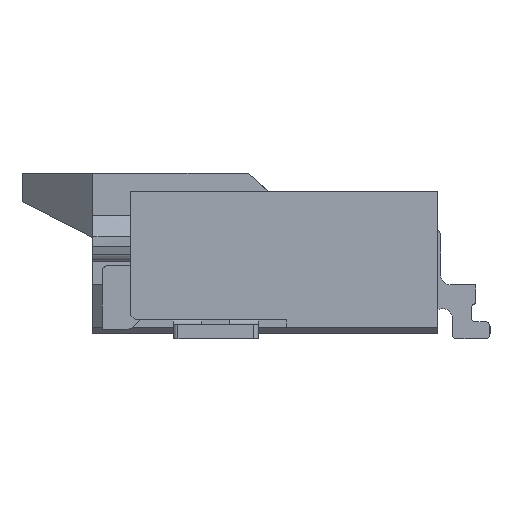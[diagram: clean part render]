
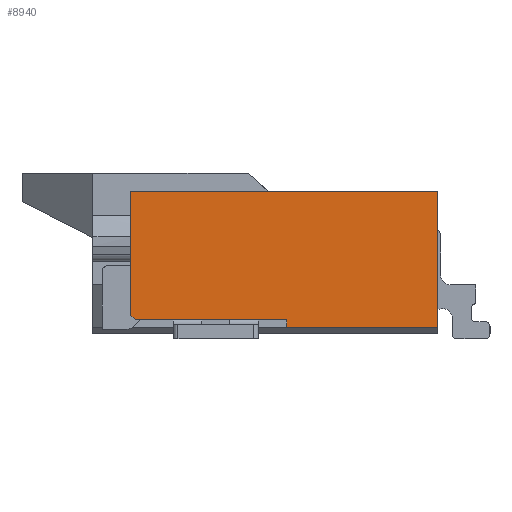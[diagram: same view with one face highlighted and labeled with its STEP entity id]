
A CAD part, left-side view. The second image highlights one B-rep face of the part: STEP entity #8940.
In plain terms, the highlighted planar face has unit normal (-1, 0, 0).
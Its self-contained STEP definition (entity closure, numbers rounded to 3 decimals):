
#298 = VECTOR ( 'NONE', #4118, 1000. ) ;
#336 = DIRECTION ( 'NONE',  ( 0., 1., 0. ) ) ;
#518 = ORIENTED_EDGE ( 'NONE', *, *, #2108, .F. ) ;
#606 = VERTEX_POINT ( 'NONE', #10501 ) ;
#1070 = LINE ( 'NONE', #8551, #7307 ) ;
#1750 = CARTESIAN_POINT ( 'NONE',  ( 7.15, -2.05, 0.07 ) ) ;
#1794 = CARTESIAN_POINT ( 'NONE',  ( 7.15, -3.65, 0. ) ) ;
#1831 = CARTESIAN_POINT ( 'NONE',  ( 7.15, -0.4, 0. ) ) ;
#2008 = CARTESIAN_POINT ( 'NONE',  ( 7.15, -3.65, 0.07 ) ) ;
#2108 = EDGE_CURVE ( 'NONE', #11210, #14336, #7288, .T. ) ;
#2283 = EDGE_CURVE ( 'NONE', #15103, #9662, #13689, .T. ) ;
#2406 = CARTESIAN_POINT ( 'NONE',  ( 7.15, -2.05, 0.15 ) ) ;
#3213 = LINE ( 'NONE', #1794, #6869 ) ;
#3321 = PLANE ( 'NONE',  #14597 ) ;
#3378 = EDGE_CURVE ( 'NONE', #14336, #19153, #1070, .T. ) ;
#3511 = EDGE_CURVE ( 'NONE', #9662, #606, #4976, .T. ) ;
#4118 = DIRECTION ( 'NONE',  ( 0., 1., 0. ) ) ;
#4200 = ORIENTED_EDGE ( 'NONE', *, *, #7908, .T. ) ;
#4976 = LINE ( 'NONE', #1831, #12768 ) ;
#6267 = ORIENTED_EDGE ( 'NONE', *, *, #18373, .F. ) ;
#6305 = LINE ( 'NONE', #14409, #18193 ) ;
#6448 = CARTESIAN_POINT ( 'NONE',  ( 7.15, -0.45, 0.15 ) ) ;
#6869 = VECTOR ( 'NONE', #17194, 1000. ) ;
#6939 = ORIENTED_EDGE ( 'NONE', *, *, #2283, .F. ) ;
#7288 = LINE ( 'NONE', #19370, #7594 ) ;
#7307 = VECTOR ( 'NONE', #14740, 1000. ) ;
#7373 = CARTESIAN_POINT ( 'NONE',  ( 7.15, -0.4, 1.51 ) ) ;
#7594 = VECTOR ( 'NONE', #11959, 1000. ) ;
#7741 = ORIENTED_EDGE ( 'NONE', *, *, #10697, .F. ) ;
#7908 = EDGE_CURVE ( 'NONE', #16389, #606, #13561, .T. ) ;
#8075 = CARTESIAN_POINT ( 'NONE',  ( 7.15, 0., 0. ) ) ;
#8551 = CARTESIAN_POINT ( 'NONE',  ( 7.15, -2.05, 0.07 ) ) ;
#8940 = ADVANCED_FACE ( 'NONE', ( #11013 ), #3321, .T. ) ;
#9662 = VERTEX_POINT ( 'NONE', #16213 ) ;
#10501 = CARTESIAN_POINT ( 'NONE',  ( 7.15, -0.4, 1.51 ) ) ;
#10697 = EDGE_CURVE ( 'NONE', #19153, #15103, #6305, .T. ) ;
#10825 = VECTOR ( 'NONE', #19882, 1000. ) ;
#11013 = FACE_OUTER_BOUND ( 'NONE', #14204, .T. ) ;
#11144 = DIRECTION ( 'NONE',  ( 0., 0., 1. ) ) ;
#11210 = VERTEX_POINT ( 'NONE', #2008 ) ;
#11959 = DIRECTION ( 'NONE',  ( 0., 1., 0. ) ) ;
#12768 = VECTOR ( 'NONE', #11144, 1000. ) ;
#13337 = ORIENTED_EDGE ( 'NONE', *, *, #3511, .F. ) ;
#13561 = LINE ( 'NONE', #7373, #298 ) ;
#13689 = LINE ( 'NONE', #13885, #10825 ) ;
#13885 = CARTESIAN_POINT ( 'NONE',  ( 7.15, -0.45, 0.15 ) ) ;
#14170 = DIRECTION ( 'NONE',  ( 0., 1., 0. ) ) ;
#14204 = EDGE_LOOP ( 'NONE', ( #518, #6267, #4200, #13337, #6939, #7741, #17430 ) ) ;
#14336 = VERTEX_POINT ( 'NONE', #1750 ) ;
#14409 = CARTESIAN_POINT ( 'NONE',  ( 7.15, 0., 0.15 ) ) ;
#14597 = AXIS2_PLACEMENT_3D ( 'NONE', #8075, #15694, #14170 ) ;
#14740 = DIRECTION ( 'NONE',  ( 0., 0., 1. ) ) ;
#15092 = CARTESIAN_POINT ( 'NONE',  ( 7.15, -3.65, 1.51 ) ) ;
#15103 = VERTEX_POINT ( 'NONE', #6448 ) ;
#15694 = DIRECTION ( 'NONE',  ( -1., 0., 0. ) ) ;
#16213 = CARTESIAN_POINT ( 'NONE',  ( 7.15, -0.4, 0.2 ) ) ;
#16389 = VERTEX_POINT ( 'NONE', #15092 ) ;
#17194 = DIRECTION ( 'NONE',  ( 0., 0., -1. ) ) ;
#17430 = ORIENTED_EDGE ( 'NONE', *, *, #3378, .F. ) ;
#18193 = VECTOR ( 'NONE', #336, 1000. ) ;
#18373 = EDGE_CURVE ( 'NONE', #16389, #11210, #3213, .T. ) ;
#19153 = VERTEX_POINT ( 'NONE', #2406 ) ;
#19370 = CARTESIAN_POINT ( 'NONE',  ( 7.15, 0., 0.07 ) ) ;
#19882 = DIRECTION ( 'NONE',  ( 0., 0.707, 0.707 ) ) ;
